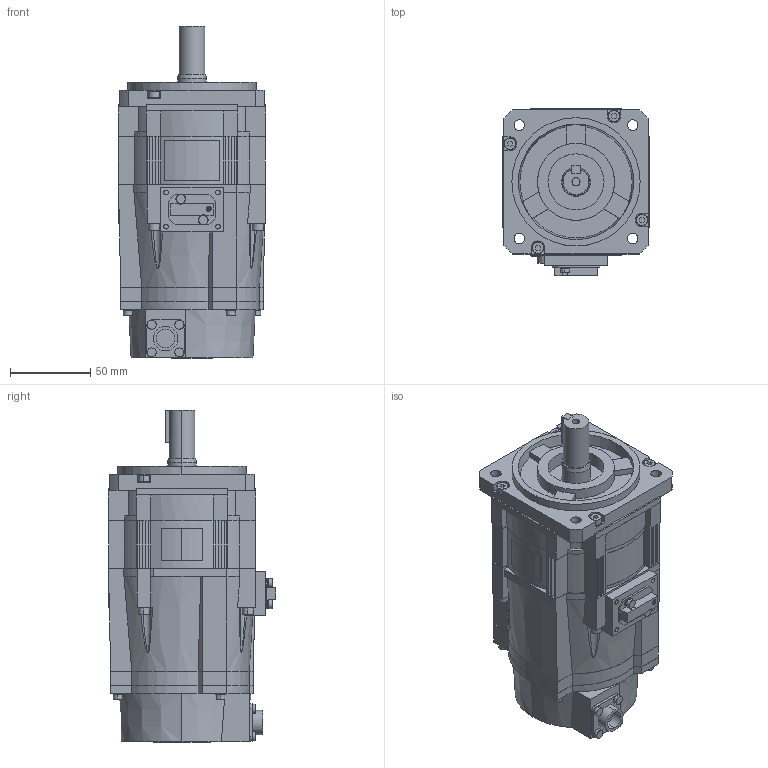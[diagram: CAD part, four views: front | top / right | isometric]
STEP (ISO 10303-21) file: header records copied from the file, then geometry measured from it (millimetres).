
FILE_DESCRIPTION (( 'STEP AP203' ), '1' );
FILE_NAME ('sgm7g_03a6a6c.STEP', '2016-11-12T04:49:39', ( '匠エンジニアリング山之内' ), ( 'TAKUMI-Engniaring' ), 'SwSTEP 2.0', 'SolidWorks 2006303', '' );
FILE_SCHEMA (( 'CONFIG_CONTROL_DESIGN' ));
Length unit declared in the file: millimetre
Products named in the file (3): sgm7g_03a6a6c_base; sgm7g_03a6a6c; sgm7g_03a6a6c_key
Assembly tree (2 placements, depth 2):
  sgm7g_03a6a6c
    sgm7g_03a6a6c_base
    sgm7g_03a6a6c_key
Bounding box: 92 x 104.5 x 207.1 mm (x, y, z)
Volume: 1101205.8 mm3; surface area: 93440 mm2
Topology: 2 solids, 2 shells, 643 faces, 1605 edges, 1037 vertices
Faces by surface type: plane 443, cylinder 175, cone 21, bspline 4
Entity records: 20438 total; most frequent: CARTESIAN_POINT 4506, DIRECTION 3260, ORIENTED_EDGE 3210, EDGE_CURVE 1605, VECTOR 1124, LINE 1124, AXIS2_PLACEMENT_3D 1068, VERTEX_POINT 1037
